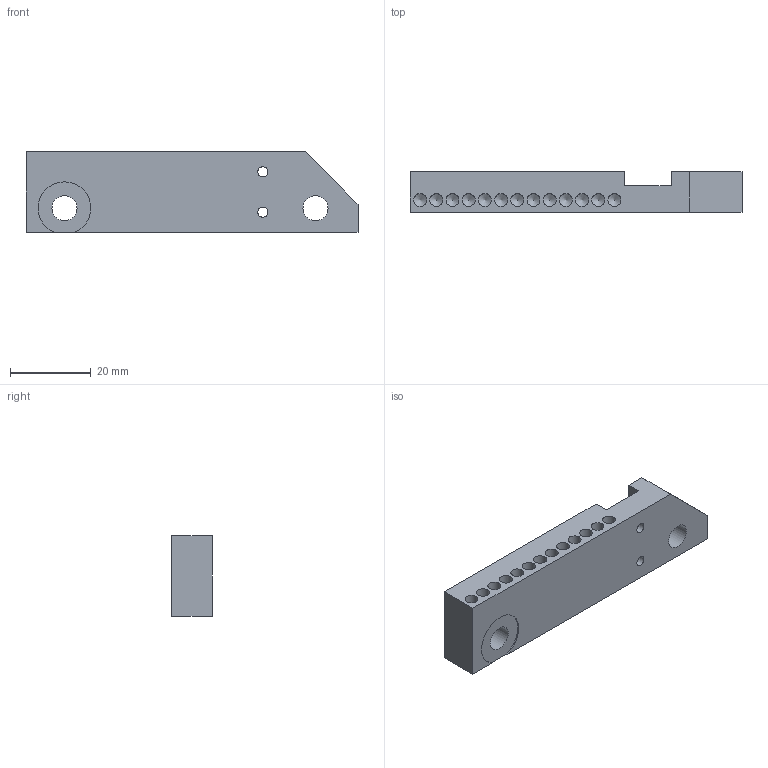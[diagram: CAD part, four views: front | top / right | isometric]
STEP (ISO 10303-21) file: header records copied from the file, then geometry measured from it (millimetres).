
FILE_DESCRIPTION(/* description */ (''),/* implementation_level */ '2;1');
FILE_NAME(/* name */ '015_GND_BLOCK.stp',/* time_stamp */ '2019-09-04T15:20:32+02:00',/* author */ (''),/* organization */ (''),/* preprocessor_version */ 'ST-DEVELOPER v16.7',/* originating_system */ 'SIEMENS PLM Software NX 12.0',/* authorisation */ '');
FILE_SCHEMA (('AUTOMOTIVE_DESIGN { 1 0 10303 214 3 1 1 1 }'));
Length unit declared in the file: millimetre
Products named in the file (1): bez368824041fow
Bounding box: 82 x 10 x 20 mm (x, y, z)
Volume: 12509.6 mm3; surface area: 7084.4 mm2
Topology: 1 solids, 1 shells, 58 faces, 171 edges, 113 vertices
Faces by surface type: cylinder 31, cone 15, plane 12
Full cylindrical faces by diameter (mm): 2.5 x15, 3.2 x13, 6.2 x2
Entity records: 2440 total; most frequent: CARTESIAN_POINT 1111, DIRECTION 253, ORIENTED_EDGE 194, FACE_BOUND 140, EDGE_LOOP 135, AXIS2_PLACEMENT_3D 110, VERTEX_POINT 97, EDGE_CURVE 97
